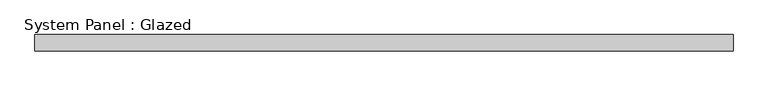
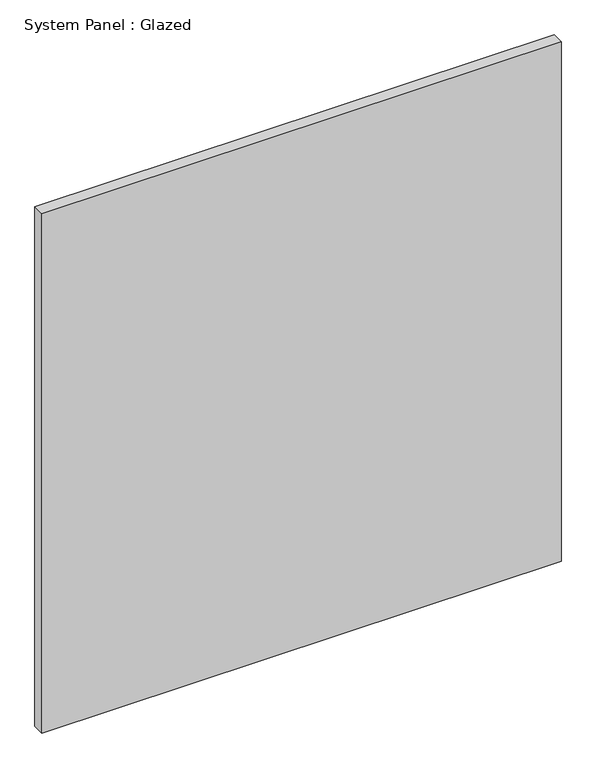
"""IFC4 building model written with IfcOpenShell, lengths in millimetres: plate geometry, System Panel : Glazed."""

from ifc_helpers import new_model, si_unit, origin, origin_with_axes, place, context, project, spatial, polyline, outline, extrude, source, transform, mapped, element, save


def system_panel_glazed_7496b868(model_context):
    return source(origin(), model_context, "Body", "SweptSolid", [
        extrude(outline(polyline([(546.4175, -44.45), (-546.4175, -44.45), (-546.4175, -19.05), (546.4175, -19.05), (546.4175, -44.45)])), origin_with_axes(), (0.0, 0.0, 1.0), 1155.7),
    ])


if __name__ == "__main__":
    model = new_model("IFC4")
    model_context = context("Model", 3, world=origin())
    ifc_project = project(units=[si_unit("LENGTHUNIT", "METRE", prefix="MILLI")], contexts=[model_context])
    site = spatial("IfcSite", under=ifc_project)
    building = spatial("IfcBuilding", under=site)
    placement = place(None, origin())
    system_panel_glazed_shape = system_panel_glazed_7496b868(model_context)
    element("IfcPlate", 1, ObjectType="System Panel : Glazed", at=placement, inside=building, context=model_context, shape_type="MappedRepresentation", body=[
        mapped(system_panel_glazed_shape, transform((0.0, 0.0, 0.0), x_axis=(1.0, 0.0, 0.0), y_axis=(0.0, 1.0, 0.0), z_axis=(0.0, 0.0, 1.0))),
    ])
    save(model, "model.ifc")
